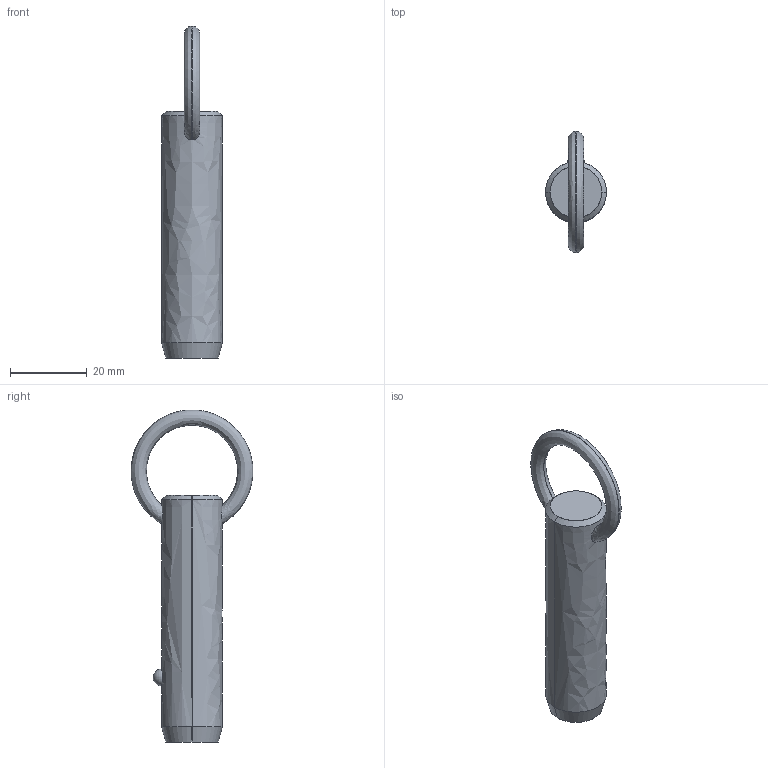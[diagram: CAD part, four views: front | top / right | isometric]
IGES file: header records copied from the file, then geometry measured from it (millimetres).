
Start section: SolidWorks IGES file using analytic representation for surfaces
Global section: file name: C:\Users\liam_\OneDrive\Documents\WORK\Work for WixRoyd\Job Files\J-00019 - Matt Davis CAD Checking\04. CAD Drawings\automotion20190605\P1250.2_v2\P1250.2_v2_20190729_IGES\P1250.062-140.igs; native system: SolidWorks 2017; preprocessor: SolidWorks 2017; author: liam_; date: 190729.233036; units: millimetre
Bounding box: 15.8 x 31.67 x 86.29 mm (x, y, z)
Surface area: 4355.6 mm2 (no closed solid volume)
Topology: 0 solids, 0 shells, 12 faces, 292 edges, 290 vertices
Faces by surface type: revolution 8, bspline 4
